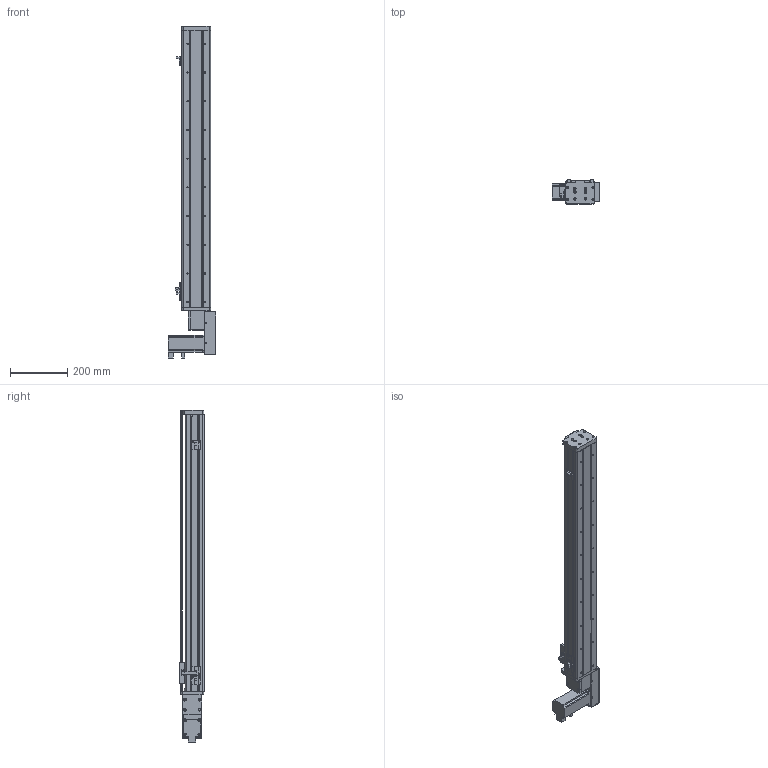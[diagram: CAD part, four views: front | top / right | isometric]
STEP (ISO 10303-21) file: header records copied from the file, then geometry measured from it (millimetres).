
FILE_DESCRIPTION (( 'STEP AP203' ), '1' );
FILE_NAME ('JDTN-100-P40-S800-2RG2SJ.STEP', '2014-03-24T01:23:56', ( 'Winiori' ), ( 'Microsoft' ), 'SwSTEP 2.0', 'SolidWorks 2007', '' );
FILE_SCHEMA (( 'CONFIG_CONTROL_DESIGN' ));
Length unit declared in the file: millimetre
Products named in the file (1): JDTN-100-P40-S800-2RG2SJ
Bounding box: 165 x 85.5 x 1156.5 mm (x, y, z)
Surface area: 644636.3 mm2 (no closed solid volume)
Topology: 0 solids, 32 shells, 529 faces, 2289 edges, 1770 vertices
Faces by surface type: plane 296, cylinder 229, cone 4
Entity records: 24380 total; most frequent: CARTESIAN_POINT 4681, DIRECTION 4302, ORIENTED_EDGE 3434, EDGE_CURVE 2289, VERTEX_POINT 1770, AXIS2_PLACEMENT_3D 1501, VECTOR 1300, LINE 1300
